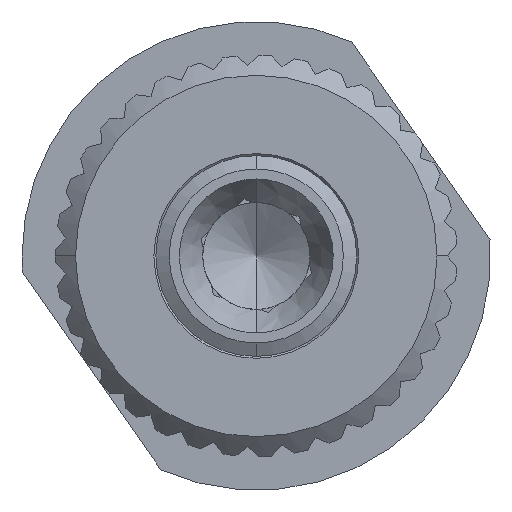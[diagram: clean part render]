
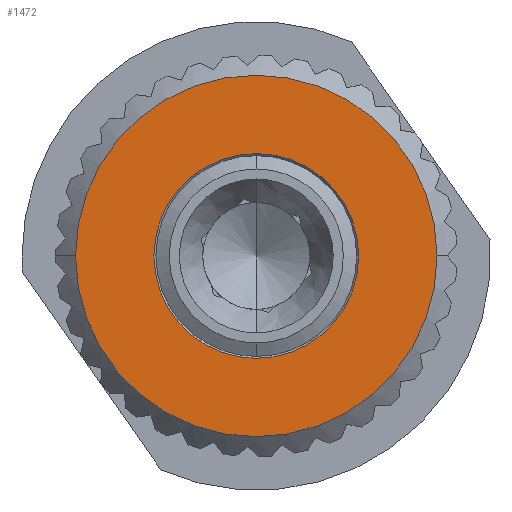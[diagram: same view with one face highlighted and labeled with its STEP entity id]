
A CAD part, left-side view. The second image highlights one B-rep face of the part: STEP entity #1472.
In plain terms, the highlighted planar face has unit normal (-1, 0, 0).
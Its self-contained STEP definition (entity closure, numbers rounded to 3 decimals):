
#828 = VERTEX_POINT ( 'NONE', #3645 ) ;
#830 = EDGE_CURVE ( 'NONE', #831, #828, #3644, .T. ) ;
#831 = VERTEX_POINT ( 'NONE', #3639 ) ;
#1139 = EDGE_CURVE ( 'NONE', #1140, #1141, #4259, .T. ) ;
#1140 = VERTEX_POINT ( 'NONE', #4254 ) ;
#1141 = VERTEX_POINT ( 'NONE', #4253 ) ;
#1391 = EDGE_LOOP ( 'NONE', ( #1450, #1451 ) ) ;
#1450 = ORIENTED_EDGE ( 'NONE', *, *, #1139, .F. ) ;
#1451 = ORIENTED_EDGE ( 'NONE', *, *, #1452, .F. ) ;
#1452 = EDGE_CURVE ( 'NONE', #1141, #1140, #4768, .T. ) ;
#1453 = EDGE_LOOP ( 'NONE', ( #1454, #1455 ) ) ;
#1454 = ORIENTED_EDGE ( 'NONE', *, *, #830, .T. ) ;
#1455 = ORIENTED_EDGE ( 'NONE', *, *, #1471, .T. ) ;
#1471 = EDGE_CURVE ( 'NONE', #828, #831, #4752, .T. ) ;
#1472 = ADVANCED_FACE ( 'NONE', ( #4800, #4799 ), #4798, .T. ) ;
#3639 = CARTESIAN_POINT ( 'NONE',  ( 8.26, -0.782, 1.53 ) ) ;
#3640 = DIRECTION ( 'NONE',  ( 0., 0., 1. ) ) ;
#3641 = DIRECTION ( 'NONE',  ( 1., 0., 0. ) ) ;
#3642 = CARTESIAN_POINT ( 'NONE',  ( 8.26, -0.782, 0. ) ) ;
#3643 = AXIS2_PLACEMENT_3D ( 'NONE', #3642, #3641, #3640 ) ;
#3644 = CIRCLE ( 'NONE', #3643, 1.53 ) ;
#3645 = CARTESIAN_POINT ( 'NONE',  ( 8.26, -0.782, -1.53 ) ) ;
#4253 = CARTESIAN_POINT ( 'NONE',  ( 8.26, -3.482, 0. ) ) ;
#4254 = CARTESIAN_POINT ( 'NONE',  ( 8.26, 1.918, 0. ) ) ;
#4255 = DIRECTION ( 'NONE',  ( 0., 1., 0. ) ) ;
#4256 = DIRECTION ( 'NONE',  ( 1., 0., 0. ) ) ;
#4257 = CARTESIAN_POINT ( 'NONE',  ( 8.26, -0.782, 0. ) ) ;
#4258 = AXIS2_PLACEMENT_3D ( 'NONE', #4257, #4256, #4255 ) ;
#4259 = CIRCLE ( 'NONE', #4258, 2.7 ) ;
#4751 = CARTESIAN_POINT ( 'NONE',  ( 8.26, -0.782, 0. ) ) ;
#4752 = CIRCLE ( 'NONE', #4803, 1.53 ) ;
#4764 = DIRECTION ( 'NONE',  ( 0., 1., 0. ) ) ;
#4765 = DIRECTION ( 'NONE',  ( 1., 0., 0. ) ) ;
#4766 = CARTESIAN_POINT ( 'NONE',  ( 8.26, -0.782, 0. ) ) ;
#4767 = AXIS2_PLACEMENT_3D ( 'NONE', #4766, #4765, #4764 ) ;
#4768 = CIRCLE ( 'NONE', #4767, 2.7 ) ;
#4794 = DIRECTION ( 'NONE',  ( 0., -1., 0. ) ) ;
#4795 = DIRECTION ( 'NONE',  ( -1., 0., 0. ) ) ;
#4796 = CARTESIAN_POINT ( 'NONE',  ( 8.26, -0.782, 0. ) ) ;
#4797 = AXIS2_PLACEMENT_3D ( 'NONE', #4796, #4795, #4794 ) ;
#4798 = PLANE ( 'NONE',  #4797 ) ;
#4799 = FACE_BOUND ( 'NONE', #1453, .T. ) ;
#4800 = FACE_OUTER_BOUND ( 'NONE', #1391, .T. ) ;
#4801 = DIRECTION ( 'NONE',  ( 0., 0., 1. ) ) ;
#4802 = DIRECTION ( 'NONE',  ( 1., 0., 0. ) ) ;
#4803 = AXIS2_PLACEMENT_3D ( 'NONE', #4751, #4802, #4801 ) ;
